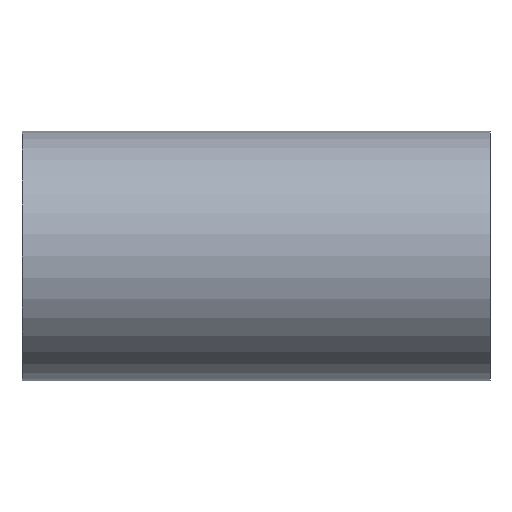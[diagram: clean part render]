
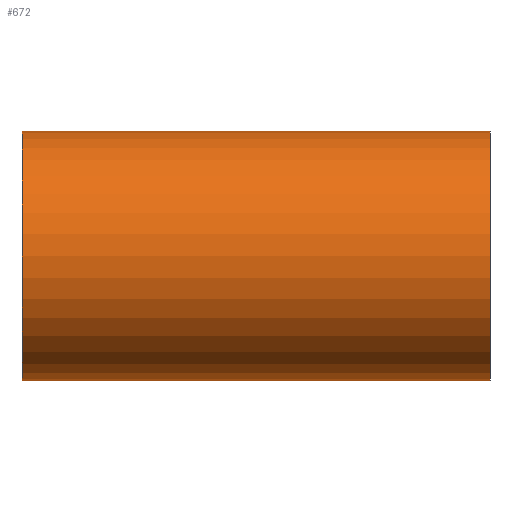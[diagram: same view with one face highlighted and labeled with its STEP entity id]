
A CAD part, front view. The second image highlights one B-rep face of the part: STEP entity #672.
In plain terms, the highlighted cylindrical face has radius 76.2 mm (diameter 152.4 mm), a partial arc.
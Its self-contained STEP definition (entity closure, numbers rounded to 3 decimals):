
#102 = CYLINDRICAL_SURFACE ( 'NONE', #1195, 76.2 ) ;
#133 = FACE_OUTER_BOUND ( 'NONE', #1083, .T. ) ;
#178 = CIRCLE ( 'NONE', #771, 76.2 ) ;
#261 = CARTESIAN_POINT ( 'NONE',  ( 142.9, 0., 76.2 ) ) ;
#303 = VERTEX_POINT ( 'NONE', #1443 ) ;
#325 = CIRCLE ( 'NONE', #450, 76.2 ) ;
#407 = EDGE_CURVE ( 'NONE', #1663, #303, #505, .T. ) ;
#450 = AXIS2_PLACEMENT_3D ( 'NONE', #1949, #1935, #1929 ) ;
#477 = VERTEX_POINT ( 'NONE', #261 ) ;
#501 = VECTOR ( 'NONE', #683, 1000. ) ;
#505 = LINE ( 'NONE', #700, #501 ) ;
#586 = EDGE_CURVE ( 'NONE', #1659, #1663, #325, .T. ) ;
#610 = EDGE_CURVE ( 'NONE', #303, #477, #178, .T. ) ;
#672 = ADVANCED_FACE ( 'NONE', ( #133 ), #102, .T. ) ;
#683 = DIRECTION ( 'NONE',  ( 1., 0., 0. ) ) ;
#700 = CARTESIAN_POINT ( 'NONE',  ( -142.9, 0., -76.2 ) ) ;
#771 = AXIS2_PLACEMENT_3D ( 'NONE', #2035, #2051, #2054 ) ;
#883 = DIRECTION ( 'NONE',  ( 1., 0., 0. ) ) ;
#1083 = EDGE_LOOP ( 'NONE', ( #1764, #1542, #1585, #1787 ) ) ;
#1086 = EDGE_CURVE ( 'NONE', #1659, #477, #1845, .T. ) ;
#1120 = CARTESIAN_POINT ( 'NONE',  ( -142.9, 0., 76.2 ) ) ;
#1146 = DIRECTION ( 'NONE',  ( 0., 0., -1. ) ) ;
#1177 = CARTESIAN_POINT ( 'NONE',  ( -142.9, 0., 0. ) ) ;
#1195 = AXIS2_PLACEMENT_3D ( 'NONE', #1177, #2082, #1146 ) ;
#1443 = CARTESIAN_POINT ( 'NONE',  ( 142.9, 0., -76.2 ) ) ;
#1447 = CARTESIAN_POINT ( 'NONE',  ( -142.9, 0., -76.2 ) ) ;
#1462 = CARTESIAN_POINT ( 'NONE',  ( -142.9, 0., 76.2 ) ) ;
#1542 = ORIENTED_EDGE ( 'NONE', *, *, #586, .T. ) ;
#1585 = ORIENTED_EDGE ( 'NONE', *, *, #407, .T. ) ;
#1659 = VERTEX_POINT ( 'NONE', #1462 ) ;
#1663 = VERTEX_POINT ( 'NONE', #1447 ) ;
#1764 = ORIENTED_EDGE ( 'NONE', *, *, #1086, .F. ) ;
#1787 = ORIENTED_EDGE ( 'NONE', *, *, #610, .T. ) ;
#1842 = VECTOR ( 'NONE', #883, 1000. ) ;
#1845 = LINE ( 'NONE', #1120, #1842 ) ;
#1929 = DIRECTION ( 'NONE',  ( 0., 0., -1. ) ) ;
#1935 = DIRECTION ( 'NONE',  ( 1., 0., 0. ) ) ;
#1949 = CARTESIAN_POINT ( 'NONE',  ( -142.9, 0., 0. ) ) ;
#2035 = CARTESIAN_POINT ( 'NONE',  ( 142.9, 0., 0. ) ) ;
#2051 = DIRECTION ( 'NONE',  ( -1., 0., 0. ) ) ;
#2054 = DIRECTION ( 'NONE',  ( 0., 0., -1. ) ) ;
#2082 = DIRECTION ( 'NONE',  ( 1., 0., 0. ) ) ;
